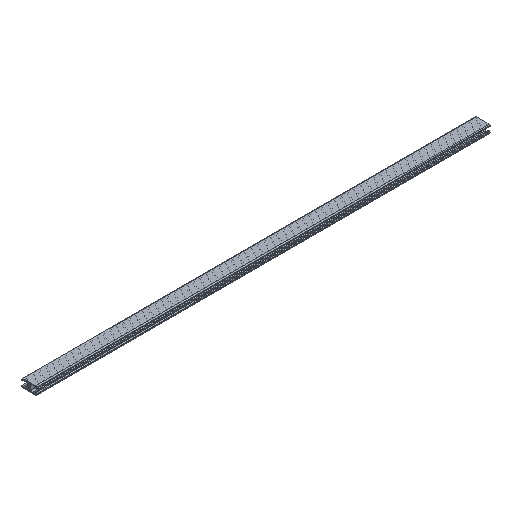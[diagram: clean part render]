
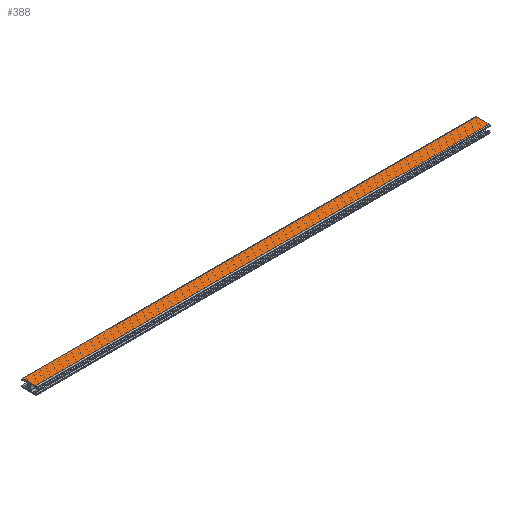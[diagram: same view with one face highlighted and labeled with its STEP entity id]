
A CAD part, isometric view. The second image highlights one B-rep face of the part: STEP entity #388.
In plain terms, the highlighted planar face has unit normal (0, 0, 1).
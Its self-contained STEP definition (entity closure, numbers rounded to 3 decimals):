
#94 = LINE ( 'NONE', #1455, #207 ) ;
#128 = DIRECTION ( 'NONE',  ( 0., 0., -1. ) ) ;
#146 = EDGE_CURVE ( 'NONE', #272, #1226, #1064, .T. ) ;
#207 = VECTOR ( 'NONE', #254, 1000. ) ;
#212 = ORIENTED_EDGE ( 'NONE', *, *, #146, .T. ) ;
#223 = CARTESIAN_POINT ( 'NONE',  ( 1000., -14., 9. ) ) ;
#241 = ORIENTED_EDGE ( 'NONE', *, *, #1026, .F. ) ;
#254 = DIRECTION ( 'NONE',  ( -1., 0., 0. ) ) ;
#267 = ORIENTED_EDGE ( 'NONE', *, *, #744, .T. ) ;
#272 = VERTEX_POINT ( 'NONE', #1779 ) ;
#281 = VERTEX_POINT ( 'NONE', #223 ) ;
#388 = ADVANCED_FACE ( 'NONE', ( #1294 ), #1663, .F. ) ;
#548 = LINE ( 'NONE', #1699, #1778 ) ;
#587 = DIRECTION ( 'NONE',  ( 0., -1., 0. ) ) ;
#625 = ORIENTED_EDGE ( 'NONE', *, *, #1111, .F. ) ;
#731 = CARTESIAN_POINT ( 'NONE',  ( 0., -14., 9. ) ) ;
#744 = EDGE_CURVE ( 'NONE', #792, #272, #920, .T. ) ;
#792 = VERTEX_POINT ( 'NONE', #1338 ) ;
#796 = DIRECTION ( 'NONE',  ( -1., 0., 0. ) ) ;
#920 = LINE ( 'NONE', #953, #1629 ) ;
#953 = CARTESIAN_POINT ( 'NONE',  ( 1000., 14., 9. ) ) ;
#965 = DIRECTION ( 'NONE',  ( -1., 0., 0. ) ) ;
#1009 = VECTOR ( 'NONE', #587, 1000. ) ;
#1026 = EDGE_CURVE ( 'NONE', #792, #281, #548, .T. ) ;
#1064 = LINE ( 'NONE', #1643, #1009 ) ;
#1111 = EDGE_CURVE ( 'NONE', #281, #1226, #94, .T. ) ;
#1226 = VERTEX_POINT ( 'NONE', #731 ) ;
#1263 = CARTESIAN_POINT ( 'NONE',  ( 1000., -14., 9. ) ) ;
#1294 = FACE_OUTER_BOUND ( 'NONE', #1647, .T. ) ;
#1338 = CARTESIAN_POINT ( 'NONE',  ( 1000., 14., 9. ) ) ;
#1435 = DIRECTION ( 'NONE',  ( 0., -1., 0. ) ) ;
#1455 = CARTESIAN_POINT ( 'NONE',  ( 1000., -14., 9. ) ) ;
#1629 = VECTOR ( 'NONE', #965, 1000. ) ;
#1643 = CARTESIAN_POINT ( 'NONE',  ( 0., -14., 9. ) ) ;
#1647 = EDGE_LOOP ( 'NONE', ( #212, #625, #241, #267 ) ) ;
#1663 = PLANE ( 'NONE',  #1690 ) ;
#1690 = AXIS2_PLACEMENT_3D ( 'NONE', #1263, #128, #796 ) ;
#1699 = CARTESIAN_POINT ( 'NONE',  ( 1000., -14., 9. ) ) ;
#1778 = VECTOR ( 'NONE', #1435, 1000. ) ;
#1779 = CARTESIAN_POINT ( 'NONE',  ( 0., 14., 9. ) ) ;
